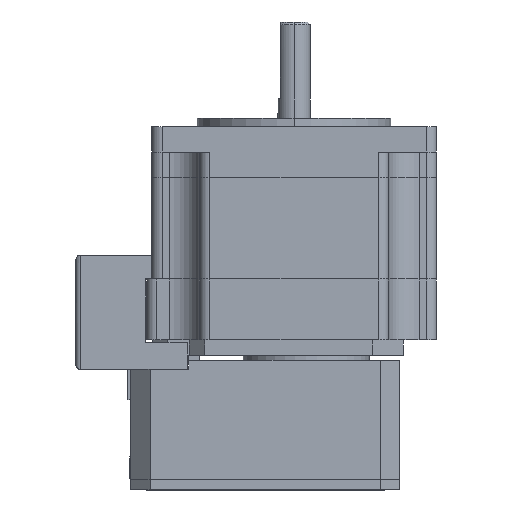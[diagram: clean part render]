
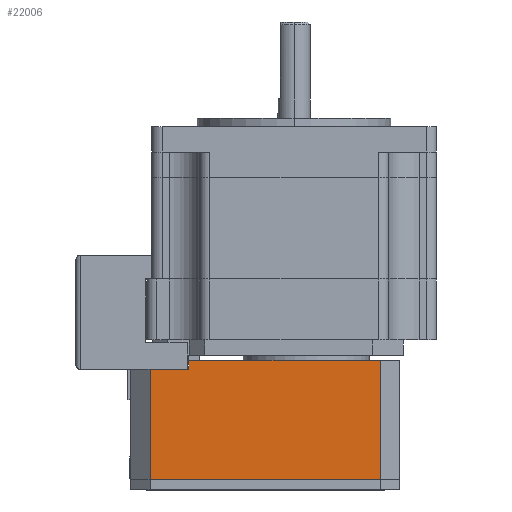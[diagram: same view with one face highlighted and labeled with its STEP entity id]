
A CAD part, left-side view. The second image highlights one B-rep face of the part: STEP entity #22006.
In plain terms, the highlighted planar face has unit normal (-1, 0, 0) as drawn and (1, 0, 0) by its records, which use the part's own axes.
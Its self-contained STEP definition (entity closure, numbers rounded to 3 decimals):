
#3882 = EDGE_CURVE ( 'NONE', #21278, #18792, #12047, .T. ) ;
#3981 = EDGE_CURVE ( 'NONE', #18837, #21278, #12212, .T. ) ;
#4774 = AXIS2_PLACEMENT_3D ( 'NONE', #17292, #17293, #17294 ) ;
#5485 = EDGE_LOOP ( 'NONE', ( #22390, #22391, #22392, #22393, #22394, #22395 ) ) ;
#12047 = LINE ( 'NONE', #13994, #12049 ) ;
#12049 = VECTOR ( 'NONE', #13995, 1000. ) ;
#12212 = LINE ( 'NONE', #14226, #12213 ) ;
#12213 = VECTOR ( 'NONE', #14227, 1000. ) ;
#12252 = LINE ( 'NONE', #14679, #12253 ) ;
#12253 = VECTOR ( 'NONE', #14680, 1000. ) ;
#12254 = LINE ( 'NONE', #14681, #12255 ) ;
#12255 = VECTOR ( 'NONE', #14682, 1000. ) ;
#12256 = LINE ( 'NONE', #14683, #12257 ) ;
#12257 = VECTOR ( 'NONE', #14684, 1000. ) ;
#12258 = LINE ( 'NONE', #14685, #12259 ) ;
#12259 = VECTOR ( 'NONE', #14686, 1000. ) ;
#13994 = CARTESIAN_POINT ( 'NONE',  ( 42., 23.5, 26.5 ) ) ;
#13995 = DIRECTION ( 'NONE',  ( 0., 0., 1. ) ) ;
#14226 = CARTESIAN_POINT ( 'NONE',  ( 42., 11.75, 3.85 ) ) ;
#14227 = DIRECTION ( 'NONE',  ( 0., 1., 0. ) ) ;
#14266 = CARTESIAN_POINT ( 'NONE',  ( 42., 21.75, 41.5 ) ) ;
#14379 = CARTESIAN_POINT ( 'NONE',  ( 42., 23.5, 41.5 ) ) ;
#14424 = CARTESIAN_POINT ( 'NONE',  ( 42., 0., 3.85 ) ) ;
#14476 = CARTESIAN_POINT ( 'NONE',  ( 42., 21.75, 49.15 ) ) ;
#14513 = CARTESIAN_POINT ( 'NONE',  ( 42., 23.5, 3.85 ) ) ;
#14639 = CARTESIAN_POINT ( 'NONE',  ( 42., 0., 49.15 ) ) ;
#14679 = CARTESIAN_POINT ( 'NONE',  ( 42., 11.75, 41.5 ) ) ;
#14680 = DIRECTION ( 'NONE',  ( 0., -1., 0. ) ) ;
#14681 = CARTESIAN_POINT ( 'NONE',  ( 42., 21.75, 47.25 ) ) ;
#14682 = DIRECTION ( 'NONE',  ( 0., 0., 1. ) ) ;
#14683 = CARTESIAN_POINT ( 'NONE',  ( 42., 10.875, 49.15 ) ) ;
#14684 = DIRECTION ( 'NONE',  ( 0., -1., 0. ) ) ;
#14685 = CARTESIAN_POINT ( 'NONE',  ( 42., 0., 26.5 ) ) ;
#14686 = DIRECTION ( 'NONE',  ( 0., 0., 1. ) ) ;
#15752 = FACE_OUTER_BOUND ( 'NONE', #5485, .T. ) ;
#17291 = PLANE ( 'NONE',  #4774 ) ;
#17292 = CARTESIAN_POINT ( 'NONE',  ( 42., 0., 49.15 ) ) ;
#17293 = DIRECTION ( 'NONE',  ( 1., 0., 0. ) ) ;
#17294 = DIRECTION ( 'NONE',  ( 0., 0., -1. ) ) ;
#18679 = VERTEX_POINT ( 'NONE', #14266 ) ;
#18792 = VERTEX_POINT ( 'NONE', #14379 ) ;
#18837 = VERTEX_POINT ( 'NONE', #14424 ) ;
#21241 = VERTEX_POINT ( 'NONE', #14476 ) ;
#21278 = VERTEX_POINT ( 'NONE', #14513 ) ;
#21404 = VERTEX_POINT ( 'NONE', #14639 ) ;
#21424 = EDGE_CURVE ( 'NONE', #18792, #18679, #12252, .T. ) ;
#21425 = EDGE_CURVE ( 'NONE', #18679, #21241, #12254, .T. ) ;
#21426 = EDGE_CURVE ( 'NONE', #21241, #21404, #12256, .T. ) ;
#21427 = EDGE_CURVE ( 'NONE', #18837, #21404, #12258, .T. ) ;
#22006 = ADVANCED_FACE ( 'NONE', ( #15752 ), #17291, .T. ) ;
#22390 = ORIENTED_EDGE ( 'NONE', *, *, #3882, .T. ) ;
#22391 = ORIENTED_EDGE ( 'NONE', *, *, #21424, .T. ) ;
#22392 = ORIENTED_EDGE ( 'NONE', *, *, #21425, .T. ) ;
#22393 = ORIENTED_EDGE ( 'NONE', *, *, #21426, .T. ) ;
#22394 = ORIENTED_EDGE ( 'NONE', *, *, #21427, .F. ) ;
#22395 = ORIENTED_EDGE ( 'NONE', *, *, #3981, .T. ) ;
